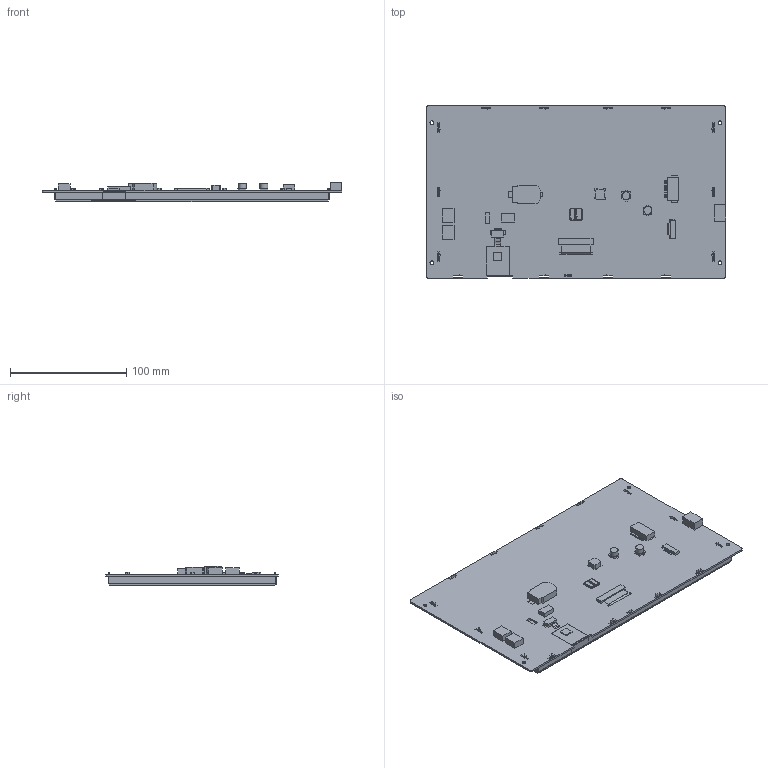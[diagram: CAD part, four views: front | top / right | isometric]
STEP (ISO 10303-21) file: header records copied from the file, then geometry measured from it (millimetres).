
FILE_DESCRIPTION(/* description */ (''),/* implementation_level */ '2;1');
FILE_NAME(/* name */ '',/* time_stamp */ '2023-07-26T18:16:34+08:00',/* author */ (''),/* organization */ (''),/* preprocessor_version */ 'ST-DEVELOPER v11',/* originating_system */ 'SIEMENS PLM Software NX 7.5',/* authorisation */ '');
FILE_SCHEMA (('AP203_CONFIGURATION_CONTROLLED_3D_DESIGN_OF_MECHANICAL_PARTS_AND_ASSEMBLIES_MIM_LF'));
Length unit declared in the file: millimetre
Products named in the file (1): 3D-SDWb101U74C_stp
Bounding box: 257.8 x 148.1 x 16.71 mm (x, y, z)
Volume: 127899.4 mm3; surface area: 232518.1 mm2
Topology: 24 solids, 24 shells, 1723 faces, 4898 edges, 3237 vertices
Faces by surface type: plane 1485, cylinder 231, bspline 7
Full cylindrical faces by diameter (mm): 3.2 x4, 6.776 x2
Entity records: 57900 total; most frequent: CARTESIAN_POINT 10296, ORIENTED_EDGE 9780, DIRECTION 8695, EDGE_CURVE 4890, LINE 4387, VECTOR 4387, VERTEX_POINT 3235, AXIS2_PLACEMENT_3D 2154
